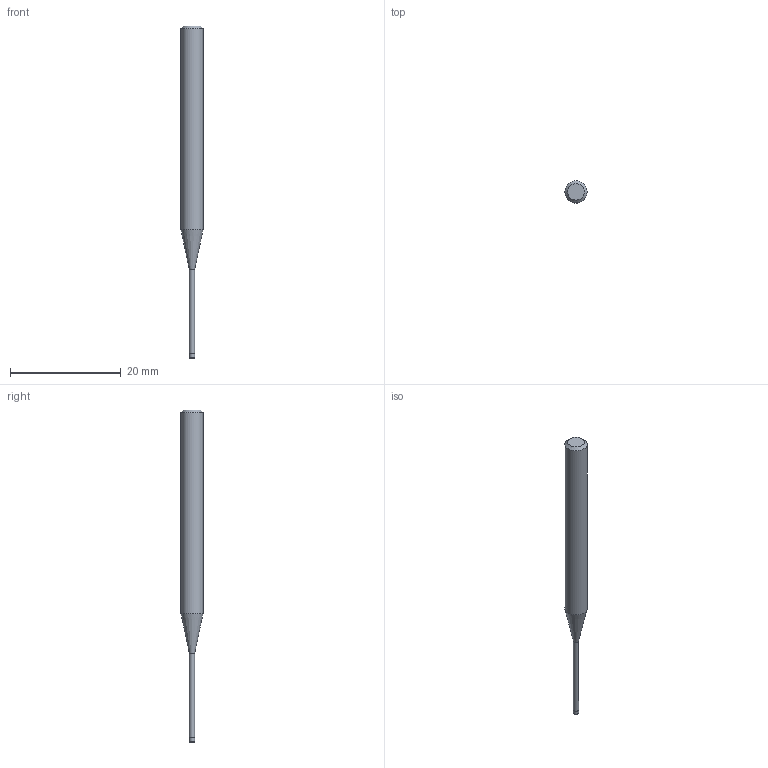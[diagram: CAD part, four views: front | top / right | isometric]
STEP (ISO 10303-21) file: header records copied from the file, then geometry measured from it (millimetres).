
FILE_DESCRIPTION((''),'2;1');
FILE_NAME('C:\Users\nsx150\AppData\Local\Temp\Mastercam 2021\17T8Q8S9EB\TEMP.step','2021-04-21T14:33:42',(''),(''),'STEP Write','Mastercam 2021 ... CNC Software, Inc.','');
FILE_SCHEMA(('AUTOMOTIVE_DESIGN'));
Length unit declared in the file: millimetre
Products named in the file (1): None
Bounding box: 4 x 4 x 60 mm (x, y, z)
Volume: 511.6 mm3; surface area: 578.4 mm2
Topology: 2 solids, 2 shells, 10 faces, 14 edges, 8 vertices
Faces by surface type: plane 4, cylinder 3, cone 2, torus 1
Full cylindrical faces by diameter (mm): 0.95 x1, 1 x1, 4 x1
Entity records: 232 total; most frequent: DIRECTION 40, CARTESIAN_POINT 28, AXIS2_PLACEMENT_3D 20, ORIENTED_EDGE 16, EDGE_LOOP 16, STYLED_ITEM 13, ADVANCED_FACE 10, FACE_BOUND 10
